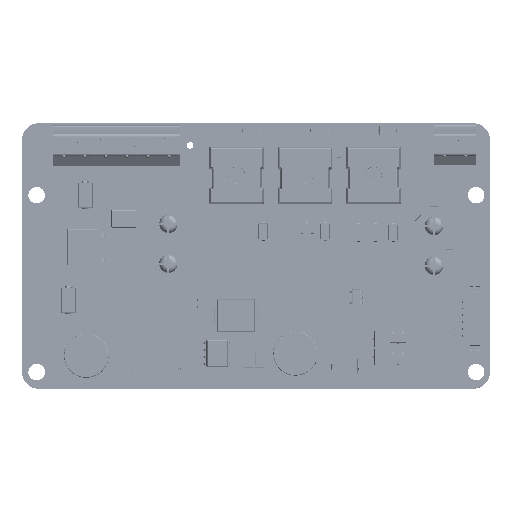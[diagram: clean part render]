
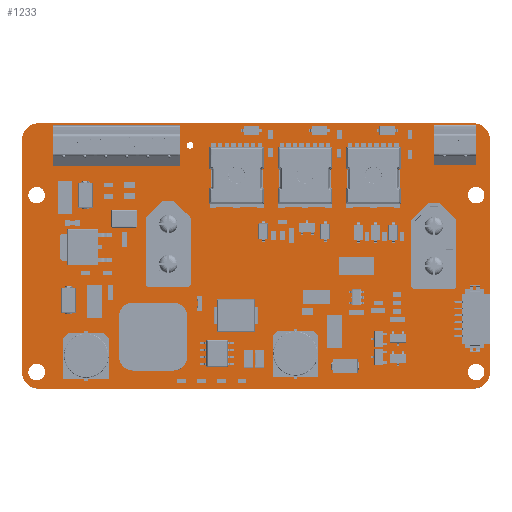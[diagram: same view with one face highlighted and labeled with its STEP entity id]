
A CAD part, top view. The second image highlights one B-rep face of the part: STEP entity #1233.
In plain terms, the highlighted planar face has unit normal (0, 0, 1).
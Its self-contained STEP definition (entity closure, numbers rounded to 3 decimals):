
#356 = VERTEX_POINT('',#357);
#357 = CARTESIAN_POINT('',(1.35,3.,1.691));
#363 = EDGE_CURVE('',#356,#364,#366,.T.);
#364 = VERTEX_POINT('',#365);
#365 = CARTESIAN_POINT('',(1.35,45.,1.691));
#366 = LINE('',#367,#368);
#367 = CARTESIAN_POINT('',(1.35,3.,1.691));
#368 = VECTOR('',#369,1.);
#369 = DIRECTION('',(0.,1.,0.));
#394 = EDGE_CURVE('',#364,#395,#397,.T.);
#395 = VERTEX_POINT('',#396);
#396 = CARTESIAN_POINT('',(4.35,48.,1.691));
#397 = CIRCLE('',#398,3.001);
#398 = AXIS2_PLACEMENT_3D('',#399,#400,#401);
#399 = CARTESIAN_POINT('',(4.351,44.999,1.691));
#400 = DIRECTION('',(0.,0.,-1.));
#401 = DIRECTION('',(-1.,0.,0.));
#427 = EDGE_CURVE('',#395,#428,#430,.T.);
#428 = VERTEX_POINT('',#429);
#429 = CARTESIAN_POINT('',(83.,48.,1.691));
#430 = LINE('',#431,#432);
#431 = CARTESIAN_POINT('',(4.35,48.,1.691));
#432 = VECTOR('',#433,1.);
#433 = DIRECTION('',(1.,0.,0.));
#458 = EDGE_CURVE('',#428,#459,#461,.T.);
#459 = VERTEX_POINT('',#460);
#460 = CARTESIAN_POINT('',(86.,45.,1.691));
#461 = CIRCLE('',#462,3.001);
#462 = AXIS2_PLACEMENT_3D('',#463,#464,#465);
#463 = CARTESIAN_POINT('',(82.999,44.999,1.691));
#464 = DIRECTION('',(0.,0.,-1.));
#465 = DIRECTION('',(0.,1.,0.));
#491 = EDGE_CURVE('',#459,#492,#494,.T.);
#492 = VERTEX_POINT('',#493);
#493 = CARTESIAN_POINT('',(86.,3.,1.691));
#494 = LINE('',#495,#496);
#495 = CARTESIAN_POINT('',(86.,45.,1.691));
#496 = VECTOR('',#497,1.);
#497 = DIRECTION('',(0.,-1.,0.));
#522 = EDGE_CURVE('',#492,#523,#525,.T.);
#523 = VERTEX_POINT('',#524);
#524 = CARTESIAN_POINT('',(83.,0.,1.691));
#525 = CIRCLE('',#526,3.001);
#526 = AXIS2_PLACEMENT_3D('',#527,#528,#529);
#527 = CARTESIAN_POINT('',(82.999,3.001,1.691));
#528 = DIRECTION('',(0.,0.,-1.));
#529 = DIRECTION('',(1.,0.,0.));
#555 = EDGE_CURVE('',#523,#556,#558,.T.);
#556 = VERTEX_POINT('',#557);
#557 = CARTESIAN_POINT('',(4.35,0.,1.691));
#558 = LINE('',#559,#560);
#559 = CARTESIAN_POINT('',(83.,0.,1.691));
#560 = VECTOR('',#561,1.);
#561 = DIRECTION('',(-1.,0.,0.));
#586 = EDGE_CURVE('',#556,#356,#587,.T.);
#587 = CIRCLE('',#588,3.001);
#588 = AXIS2_PLACEMENT_3D('',#589,#590,#591);
#589 = CARTESIAN_POINT('',(4.351,3.001,1.691));
#590 = DIRECTION('',(0.,0.,-1.));
#591 = DIRECTION('',(0.,-1.,0.));
#612 = VERTEX_POINT('',#613);
#613 = CARTESIAN_POINT('',(5.5,3.,1.691));
#619 = EDGE_CURVE('',#612,#612,#620,.T.);
#620 = CIRCLE('',#621,1.5);
#621 = AXIS2_PLACEMENT_3D('',#622,#623,#624);
#622 = CARTESIAN_POINT('',(4.,3.,1.691));
#623 = DIRECTION('',(0.,0.,1.));
#624 = DIRECTION('',(1.,0.,0.));
#645 = VERTEX_POINT('',#646);
#646 = CARTESIAN_POINT('',(5.5,35.,1.691));
#652 = EDGE_CURVE('',#645,#645,#653,.T.);
#653 = CIRCLE('',#654,1.5);
#654 = AXIS2_PLACEMENT_3D('',#655,#656,#657);
#655 = CARTESIAN_POINT('',(4.,35.,1.691));
#656 = DIRECTION('',(0.,0.,1.));
#657 = DIRECTION('',(1.,0.,0.));
#678 = VERTEX_POINT('',#679);
#679 = CARTESIAN_POINT('',(30.013,29.762,1.691));
#685 = EDGE_CURVE('',#678,#678,#686,.T.);
#686 = CIRCLE('',#687,2.2);
#687 = AXIS2_PLACEMENT_3D('',#688,#689,#690);
#688 = CARTESIAN_POINT('',(27.813,29.762,1.691));
#689 = DIRECTION('',(0.,0.,1.));
#690 = DIRECTION('',(1.,0.,0.));
#711 = VERTEX_POINT('',#712);
#712 = CARTESIAN_POINT('',(24.73,43.993,1.691));
#718 = EDGE_CURVE('',#711,#711,#719,.T.);
#719 = CIRCLE('',#720,0.6);
#720 = AXIS2_PLACEMENT_3D('',#721,#722,#723);
#721 = CARTESIAN_POINT('',(24.13,43.993,1.691));
#722 = DIRECTION('',(0.,0.,1.));
#723 = DIRECTION('',(1.,0.,0.));
#744 = VERTEX_POINT('',#745);
#745 = CARTESIAN_POINT('',(13.3,43.993,1.691));
#751 = EDGE_CURVE('',#744,#744,#752,.T.);
#752 = CIRCLE('',#753,0.6);
#753 = AXIS2_PLACEMENT_3D('',#754,#755,#756);
#754 = CARTESIAN_POINT('',(12.7,43.993,1.691));
#755 = DIRECTION('',(0.,0.,1.));
#756 = DIRECTION('',(1.,0.,0.));
#777 = VERTEX_POINT('',#778);
#778 = CARTESIAN_POINT('',(9.49,43.993,1.691));
#784 = EDGE_CURVE('',#777,#777,#785,.T.);
#785 = CIRCLE('',#786,0.6);
#786 = AXIS2_PLACEMENT_3D('',#787,#788,#789);
#787 = CARTESIAN_POINT('',(8.89,43.993,1.691));
#788 = DIRECTION('',(0.,0.,1.));
#789 = DIRECTION('',(1.,0.,0.));
#810 = VERTEX_POINT('',#811);
#811 = CARTESIAN_POINT('',(20.92,43.993,1.691));
#817 = EDGE_CURVE('',#810,#810,#818,.T.);
#818 = CIRCLE('',#819,0.6);
#819 = AXIS2_PLACEMENT_3D('',#820,#821,#822);
#820 = CARTESIAN_POINT('',(20.32,43.993,1.691));
#821 = DIRECTION('',(0.,0.,1.));
#822 = DIRECTION('',(1.,0.,0.));
#843 = VERTEX_POINT('',#844);
#844 = CARTESIAN_POINT('',(17.11,43.993,1.691));
#850 = EDGE_CURVE('',#843,#843,#851,.T.);
#851 = CIRCLE('',#852,0.6);
#852 = AXIS2_PLACEMENT_3D('',#853,#854,#855);
#853 = CARTESIAN_POINT('',(16.51,43.993,1.691));
#854 = DIRECTION('',(0.,0.,1.));
#855 = DIRECTION('',(1.,0.,0.));
#876 = VERTEX_POINT('',#877);
#877 = CARTESIAN_POINT('',(78.044,22.181,1.691));
#883 = EDGE_CURVE('',#876,#876,#884,.T.);
#884 = CIRCLE('',#885,2.2);
#885 = AXIS2_PLACEMENT_3D('',#886,#887,#888);
#886 = CARTESIAN_POINT('',(75.844,22.181,1.691));
#887 = DIRECTION('',(0.,0.,1.));
#888 = DIRECTION('',(1.,0.,0.));
#909 = VERTEX_POINT('',#910);
#910 = CARTESIAN_POINT('',(30.013,22.562,1.691));
#916 = EDGE_CURVE('',#909,#909,#917,.T.);
#917 = CIRCLE('',#918,2.2);
#918 = AXIS2_PLACEMENT_3D('',#919,#920,#921);
#919 = CARTESIAN_POINT('',(27.813,22.562,1.691));
#920 = DIRECTION('',(0.,0.,1.));
#921 = DIRECTION('',(1.,0.,0.));
#942 = VERTEX_POINT('',#943);
#943 = CARTESIAN_POINT('',(85.,3.,1.691));
#949 = EDGE_CURVE('',#942,#942,#950,.T.);
#950 = CIRCLE('',#951,1.5);
#951 = AXIS2_PLACEMENT_3D('',#952,#953,#954);
#952 = CARTESIAN_POINT('',(83.5,3.,1.691));
#953 = DIRECTION('',(0.,0.,1.));
#954 = DIRECTION('',(1.,0.,0.));
#975 = VERTEX_POINT('',#976);
#976 = CARTESIAN_POINT('',(78.044,29.381,1.691));
#982 = EDGE_CURVE('',#975,#975,#983,.T.);
#983 = CIRCLE('',#984,2.2);
#984 = AXIS2_PLACEMENT_3D('',#985,#986,#987);
#985 = CARTESIAN_POINT('',(75.844,29.381,1.691));
#986 = DIRECTION('',(0.,0.,1.));
#987 = DIRECTION('',(1.,0.,0.));
#1008 = VERTEX_POINT('',#1009);
#1009 = CARTESIAN_POINT('',(32.35,43.993,1.691));
#1015 = EDGE_CURVE('',#1008,#1008,#1016,.T.);
#1016 = CIRCLE('',#1017,0.6);
#1017 = AXIS2_PLACEMENT_3D('',#1018,#1019,#1020);
#1018 = CARTESIAN_POINT('',(31.75,43.993,1.691));
#1019 = DIRECTION('',(0.,0.,1.));
#1020 = DIRECTION('',(1.,0.,0.));
#1041 = VERTEX_POINT('',#1042);
#1042 = CARTESIAN_POINT('',(28.54,43.993,1.691));
#1048 = EDGE_CURVE('',#1041,#1041,#1049,.T.);
#1049 = CIRCLE('',#1050,0.6);
#1050 = AXIS2_PLACEMENT_3D('',#1051,#1052,#1053);
#1051 = CARTESIAN_POINT('',(27.94,43.993,1.691));
#1052 = DIRECTION('',(0.,0.,1.));
#1053 = DIRECTION('',(1.,0.,0.));
#1074 = VERTEX_POINT('',#1075);
#1075 = CARTESIAN_POINT('',(85.,35.,1.691));
#1081 = EDGE_CURVE('',#1074,#1074,#1082,.T.);
#1082 = CIRCLE('',#1083,1.5);
#1083 = AXIS2_PLACEMENT_3D('',#1084,#1085,#1086);
#1084 = CARTESIAN_POINT('',(83.5,35.,1.691));
#1085 = DIRECTION('',(0.,0.,1.));
#1086 = DIRECTION('',(1.,0.,0.));
#1107 = VERTEX_POINT('',#1108);
#1108 = CARTESIAN_POINT('',(78.324,44.069,1.691));
#1114 = EDGE_CURVE('',#1107,#1107,#1115,.T.);
#1115 = CIRCLE('',#1116,0.6);
#1116 = AXIS2_PLACEMENT_3D('',#1117,#1118,#1119);
#1117 = CARTESIAN_POINT('',(77.724,44.069,1.691));
#1118 = DIRECTION('',(0.,0.,1.));
#1119 = DIRECTION('',(1.,0.,0.));
#1140 = VERTEX_POINT('',#1141);
#1141 = CARTESIAN_POINT('',(82.134,44.069,1.691));
#1147 = EDGE_CURVE('',#1140,#1140,#1148,.T.);
#1148 = CIRCLE('',#1149,0.6);
#1149 = AXIS2_PLACEMENT_3D('',#1150,#1151,#1152);
#1150 = CARTESIAN_POINT('',(81.534,44.069,1.691));
#1151 = DIRECTION('',(0.,0.,1.));
#1152 = DIRECTION('',(1.,0.,0.));
#1233 = ADVANCED_FACE('',(#1234,#1244,#1247,#1250,#1253,#1256,#1259,
    #1262,#1265,#1268,#1271,#1274,#1277,#1280,#1283,#1286,#1289,#1292),
  #1295,.T.);
#1234 = FACE_BOUND('',#1235,.F.);
#1235 = EDGE_LOOP('',(#1236,#1237,#1238,#1239,#1240,#1241,#1242,#1243));
#1236 = ORIENTED_EDGE('',*,*,#363,.T.);
#1237 = ORIENTED_EDGE('',*,*,#394,.T.);
#1238 = ORIENTED_EDGE('',*,*,#427,.T.);
#1239 = ORIENTED_EDGE('',*,*,#458,.T.);
#1240 = ORIENTED_EDGE('',*,*,#491,.T.);
#1241 = ORIENTED_EDGE('',*,*,#522,.T.);
#1242 = ORIENTED_EDGE('',*,*,#555,.T.);
#1243 = ORIENTED_EDGE('',*,*,#586,.T.);
#1244 = FACE_BOUND('',#1245,.T.);
#1245 = EDGE_LOOP('',(#1246));
#1246 = ORIENTED_EDGE('',*,*,#619,.F.);
#1247 = FACE_BOUND('',#1248,.T.);
#1248 = EDGE_LOOP('',(#1249));
#1249 = ORIENTED_EDGE('',*,*,#652,.F.);
#1250 = FACE_BOUND('',#1251,.T.);
#1251 = EDGE_LOOP('',(#1252));
#1252 = ORIENTED_EDGE('',*,*,#685,.F.);
#1253 = FACE_BOUND('',#1254,.T.);
#1254 = EDGE_LOOP('',(#1255));
#1255 = ORIENTED_EDGE('',*,*,#718,.F.);
#1256 = FACE_BOUND('',#1257,.T.);
#1257 = EDGE_LOOP('',(#1258));
#1258 = ORIENTED_EDGE('',*,*,#751,.F.);
#1259 = FACE_BOUND('',#1260,.T.);
#1260 = EDGE_LOOP('',(#1261));
#1261 = ORIENTED_EDGE('',*,*,#784,.F.);
#1262 = FACE_BOUND('',#1263,.T.);
#1263 = EDGE_LOOP('',(#1264));
#1264 = ORIENTED_EDGE('',*,*,#817,.F.);
#1265 = FACE_BOUND('',#1266,.T.);
#1266 = EDGE_LOOP('',(#1267));
#1267 = ORIENTED_EDGE('',*,*,#850,.F.);
#1268 = FACE_BOUND('',#1269,.T.);
#1269 = EDGE_LOOP('',(#1270));
#1270 = ORIENTED_EDGE('',*,*,#883,.F.);
#1271 = FACE_BOUND('',#1272,.T.);
#1272 = EDGE_LOOP('',(#1273));
#1273 = ORIENTED_EDGE('',*,*,#916,.F.);
#1274 = FACE_BOUND('',#1275,.T.);
#1275 = EDGE_LOOP('',(#1276));
#1276 = ORIENTED_EDGE('',*,*,#949,.F.);
#1277 = FACE_BOUND('',#1278,.T.);
#1278 = EDGE_LOOP('',(#1279));
#1279 = ORIENTED_EDGE('',*,*,#982,.F.);
#1280 = FACE_BOUND('',#1281,.T.);
#1281 = EDGE_LOOP('',(#1282));
#1282 = ORIENTED_EDGE('',*,*,#1015,.F.);
#1283 = FACE_BOUND('',#1284,.T.);
#1284 = EDGE_LOOP('',(#1285));
#1285 = ORIENTED_EDGE('',*,*,#1048,.F.);
#1286 = FACE_BOUND('',#1287,.T.);
#1287 = EDGE_LOOP('',(#1288));
#1288 = ORIENTED_EDGE('',*,*,#1081,.F.);
#1289 = FACE_BOUND('',#1290,.T.);
#1290 = EDGE_LOOP('',(#1291));
#1291 = ORIENTED_EDGE('',*,*,#1114,.F.);
#1292 = FACE_BOUND('',#1293,.T.);
#1293 = EDGE_LOOP('',(#1294));
#1294 = ORIENTED_EDGE('',*,*,#1147,.F.);
#1295 = PLANE('',#1296);
#1296 = AXIS2_PLACEMENT_3D('',#1297,#1298,#1299);
#1297 = CARTESIAN_POINT('',(1.35,3.,1.691));
#1298 = DIRECTION('',(0.,0.,1.));
#1299 = DIRECTION('',(1.,0.,0.));
